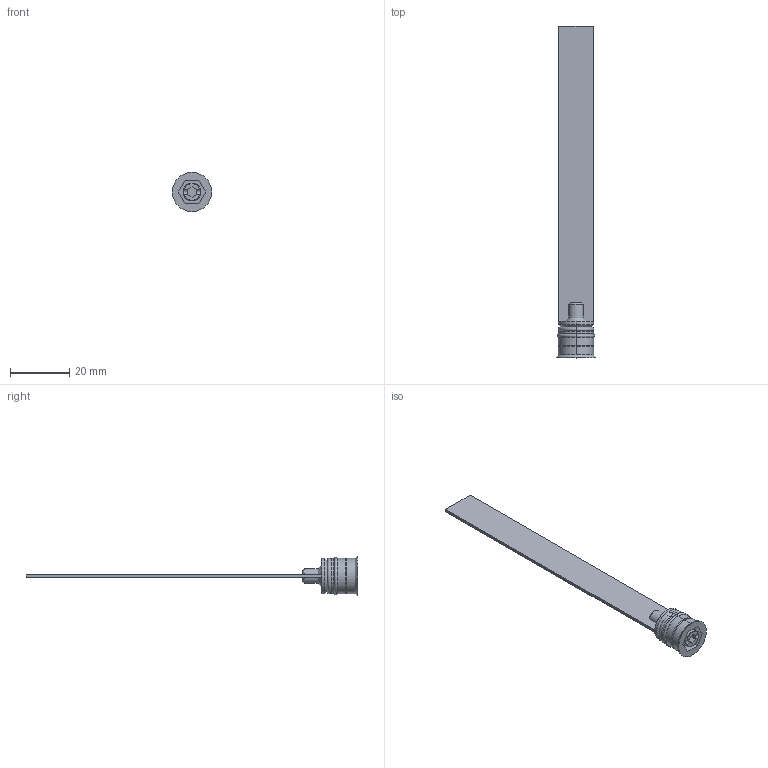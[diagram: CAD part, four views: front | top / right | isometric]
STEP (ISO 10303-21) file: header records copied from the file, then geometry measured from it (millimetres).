
FILE_DESCRIPTION (( 'STEP AP203' ), '1' );
FILE_NAME ('RL-12Fx100.STEP', '2015-12-02T10:15:46', ( 'Balzi' ), ( '' ), 'SwSTEP 2.0', 'SolidWorks 2015', '' );
FILE_SCHEMA (( 'CONFIG_CONTROL_DESIGN' ));
Length unit declared in the file: millimetre
Products named in the file (1): RL-12Fx100
Bounding box: 13.3 x 112.5 x 13.3 mm (x, y, z)
Volume: 2543.4 mm3; surface area: 3635.9 mm2
Topology: 1 solids, 1 shells, 72 faces, 171 edges, 105 vertices
Faces by surface type: plane 30, cylinder 17, cone 17, torus 8
Entity records: 2165 total; most frequent: CARTESIAN_POINT 399, DIRECTION 370, ORIENTED_EDGE 342, EDGE_CURVE 171, AXIS2_PLACEMENT_3D 140, VERTEX_POINT 105, LINE 90, VECTOR 90
